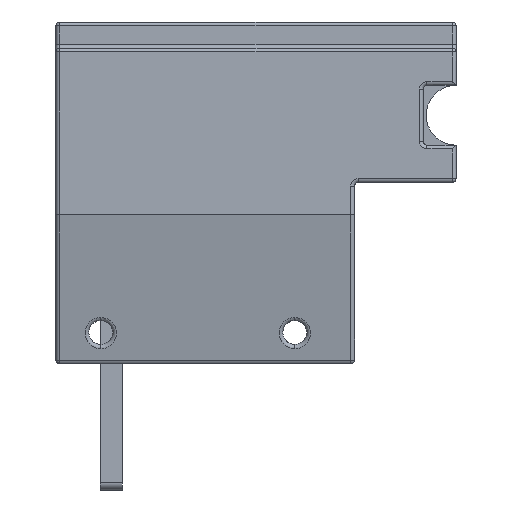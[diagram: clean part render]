
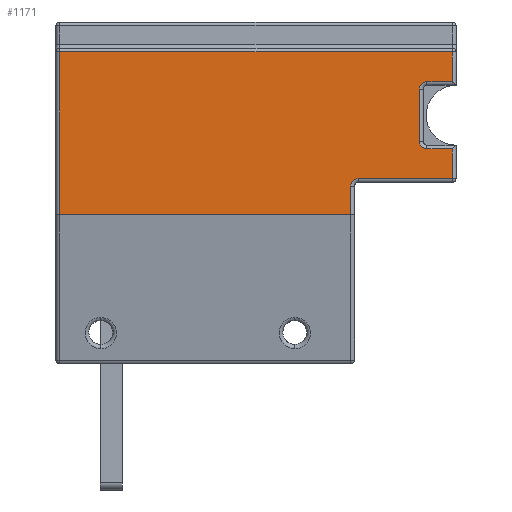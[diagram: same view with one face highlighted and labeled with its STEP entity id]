
A CAD part, front view. The second image highlights one B-rep face of the part: STEP entity #1171.
In plain terms, the highlighted planar face has unit normal (0, -1, 0).
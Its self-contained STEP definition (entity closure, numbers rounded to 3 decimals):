
#144 = ORIENTED_EDGE ( 'NONE', *, *, #10384, .T. ) ;
#282 = VECTOR ( 'NONE', #6826, 1000. ) ;
#336 = ORIENTED_EDGE ( 'NONE', *, *, #6099, .T. ) ;
#454 = CARTESIAN_POINT ( 'NONE',  ( 26.2, -32.5, 17.2 ) ) ;
#539 = ORIENTED_EDGE ( 'NONE', *, *, #9422, .T. ) ;
#615 = CARTESIAN_POINT ( 'NONE',  ( 27.2, -32.5, 18.2 ) ) ;
#652 = LINE ( 'NONE', #4635, #997 ) ;
#997 = VECTOR ( 'NONE', #10243, 1000. ) ;
#1037 = ORIENTED_EDGE ( 'NONE', *, *, #8404, .T. ) ;
#1171 = ADVANCED_FACE ( 'NONE', ( #1970 ), #1858, .F. ) ;
#1188 = LINE ( 'NONE', #10195, #282 ) ;
#1243 = DIRECTION ( 'NONE',  ( -1., 0., 0. ) ) ;
#1591 = ORIENTED_EDGE ( 'NONE', *, *, #5719, .T. ) ;
#1672 = VERTEX_POINT ( 'NONE', #3599 ) ;
#1858 = PLANE ( 'NONE',  #4936 ) ;
#1873 = EDGE_CURVE ( 'NONE', #1672, #1994, #5998, .T. ) ;
#1950 = EDGE_CURVE ( 'NONE', #7276, #7070, #652, .T. ) ;
#1970 = FACE_OUTER_BOUND ( 'NONE', #6069, .T. ) ;
#1992 = CARTESIAN_POINT ( 'NONE',  ( -22., -32.5, 0.444 ) ) ;
#1994 = VERTEX_POINT ( 'NONE', #2230 ) ;
#2209 = CIRCLE ( 'NONE', #8758, 1. ) ;
#2230 = CARTESIAN_POINT ( 'NONE',  ( -22., -32.5, 22.2 ) ) ;
#2300 = DIRECTION ( 'NONE',  ( 1., 0., 0. ) ) ;
#2385 = ORIENTED_EDGE ( 'NONE', *, *, #9700, .F. ) ;
#2398 = ORIENTED_EDGE ( 'NONE', *, *, #5304, .T. ) ;
#2960 = ORIENTED_EDGE ( 'NONE', *, *, #3482, .F. ) ;
#2984 = LINE ( 'NONE', #5576, #8685 ) ;
#3043 = DIRECTION ( 'NONE',  ( 0., 0., 1. ) ) ;
#3102 = CARTESIAN_POINT ( 'NONE',  ( 27.2, -32.5, 17.2 ) ) ;
#3253 = VERTEX_POINT ( 'NONE', #454 ) ;
#3263 = LINE ( 'NONE', #5822, #5469 ) ;
#3424 = DIRECTION ( 'NONE',  ( 1., 0., 0. ) ) ;
#3447 = LINE ( 'NONE', #4283, #5596 ) ;
#3482 = EDGE_CURVE ( 'NONE', #8274, #7070, #10109, .T. ) ;
#3599 = CARTESIAN_POINT ( 'NONE',  ( 30.6, -32.5, 22.2 ) ) ;
#3608 = VERTEX_POINT ( 'NONE', #9634 ) ;
#3795 = VERTEX_POINT ( 'NONE', #7651 ) ;
#4029 = CARTESIAN_POINT ( 'NONE',  ( 30.6, -32.5, 0. ) ) ;
#4076 = LINE ( 'NONE', #9518, #8293 ) ;
#4115 = CIRCLE ( 'NONE', #5478, 1. ) ;
#4194 = CARTESIAN_POINT ( 'NONE',  ( 30.6, -32.5, 18.2 ) ) ;
#4211 = DIRECTION ( 'NONE',  ( 0., 0., 1. ) ) ;
#4283 = CARTESIAN_POINT ( 'NONE',  ( 30.6, -32.5, 0. ) ) ;
#4321 = DIRECTION ( 'NONE',  ( 0., 1., 0. ) ) ;
#4635 = CARTESIAN_POINT ( 'NONE',  ( 0., -32.5, 9.2 ) ) ;
#4669 = CARTESIAN_POINT ( 'NONE',  ( 27.2, -32.5, 10.2 ) ) ;
#4826 = DIRECTION ( 'NONE',  ( 0., -1., 0. ) ) ;
#4912 = VERTEX_POINT ( 'NONE', #4194 ) ;
#4936 = AXIS2_PLACEMENT_3D ( 'NONE', #7623, #4321, #6879 ) ;
#4943 = VERTEX_POINT ( 'NONE', #1992 ) ;
#5142 = VERTEX_POINT ( 'NONE', #615 ) ;
#5304 = EDGE_CURVE ( 'NONE', #4912, #1672, #7284, .T. ) ;
#5306 = CARTESIAN_POINT ( 'NONE',  ( 30.6, -32.5, 9.2 ) ) ;
#5433 = EDGE_CURVE ( 'NONE', #8274, #3253, #2984, .T. ) ;
#5469 = VECTOR ( 'NONE', #3424, 1000. ) ;
#5478 = AXIS2_PLACEMENT_3D ( 'NONE', #3102, #8586, #7175 ) ;
#5576 = CARTESIAN_POINT ( 'NONE',  ( 26.2, -32.5, 0. ) ) ;
#5596 = VECTOR ( 'NONE', #9895, 1000. ) ;
#5707 = CARTESIAN_POINT ( 'NONE',  ( 17., -32.5, 4.2 ) ) ;
#5719 = EDGE_CURVE ( 'NONE', #1994, #4943, #8564, .T. ) ;
#5776 = VECTOR ( 'NONE', #8272, 1000. ) ;
#5822 = CARTESIAN_POINT ( 'NONE',  ( 17.5, -32.5, 0.444 ) ) ;
#5877 = LINE ( 'NONE', #10171, #6375 ) ;
#5998 = LINE ( 'NONE', #6724, #6718 ) ;
#6055 = CARTESIAN_POINT ( 'NONE',  ( 18., -32.5, 4.2 ) ) ;
#6069 = EDGE_LOOP ( 'NONE', ( #2385, #144, #2398, #6733, #1591, #539, #336, #6596, #7518, #1037, #9126, #2960, #6425 ) ) ;
#6099 = EDGE_CURVE ( 'NONE', #3795, #7650, #5877, .T. ) ;
#6313 = CARTESIAN_POINT ( 'NONE',  ( -22., -32.5, 0. ) ) ;
#6319 = VERTEX_POINT ( 'NONE', #9127 ) ;
#6368 = CARTESIAN_POINT ( 'NONE',  ( 27.2, -32.5, 9.2 ) ) ;
#6375 = VECTOR ( 'NONE', #4211, 1000. ) ;
#6425 = ORIENTED_EDGE ( 'NONE', *, *, #5433, .T. ) ;
#6596 = ORIENTED_EDGE ( 'NONE', *, *, #7358, .F. ) ;
#6718 = VECTOR ( 'NONE', #1243, 1000. ) ;
#6724 = CARTESIAN_POINT ( 'NONE',  ( 0., -32.5, 22.2 ) ) ;
#6733 = ORIENTED_EDGE ( 'NONE', *, *, #1873, .T. ) ;
#6826 = DIRECTION ( 'NONE',  ( 1., 0., 0. ) ) ;
#6879 = DIRECTION ( 'NONE',  ( 0., 0., 1. ) ) ;
#7070 = VERTEX_POINT ( 'NONE', #6368 ) ;
#7175 = DIRECTION ( 'NONE',  ( 0., 0., 1. ) ) ;
#7276 = VERTEX_POINT ( 'NONE', #5306 ) ;
#7284 = LINE ( 'NONE', #4029, #5776 ) ;
#7358 = EDGE_CURVE ( 'NONE', #6319, #7650, #2209, .T. ) ;
#7518 = ORIENTED_EDGE ( 'NONE', *, *, #8799, .T. ) ;
#7528 = DIRECTION ( 'NONE',  ( 0., 0., 1. ) ) ;
#7587 = AXIS2_PLACEMENT_3D ( 'NONE', #4669, #4826, #3043 ) ;
#7623 = CARTESIAN_POINT ( 'NONE',  ( 0., -32.5, 0. ) ) ;
#7650 = VERTEX_POINT ( 'NONE', #5707 ) ;
#7651 = CARTESIAN_POINT ( 'NONE',  ( 17., -32.5, 0.444 ) ) ;
#7711 = VECTOR ( 'NONE', #10356, 1000. ) ;
#8272 = DIRECTION ( 'NONE',  ( 0., 0., 1. ) ) ;
#8274 = VERTEX_POINT ( 'NONE', #10374 ) ;
#8293 = VECTOR ( 'NONE', #2300, 1000. ) ;
#8404 = EDGE_CURVE ( 'NONE', #3608, #7276, #3447, .T. ) ;
#8564 = LINE ( 'NONE', #6313, #7711 ) ;
#8586 = DIRECTION ( 'NONE',  ( 0., -1., 0. ) ) ;
#8685 = VECTOR ( 'NONE', #10368, 1000. ) ;
#8758 = AXIS2_PLACEMENT_3D ( 'NONE', #6055, #9946, #7528 ) ;
#8799 = EDGE_CURVE ( 'NONE', #6319, #3608, #4076, .T. ) ;
#9126 = ORIENTED_EDGE ( 'NONE', *, *, #1950, .T. ) ;
#9127 = CARTESIAN_POINT ( 'NONE',  ( 18., -32.5, 5.2 ) ) ;
#9422 = EDGE_CURVE ( 'NONE', #4943, #3795, #3263, .T. ) ;
#9518 = CARTESIAN_POINT ( 'NONE',  ( 0., -32.5, 5.2 ) ) ;
#9634 = CARTESIAN_POINT ( 'NONE',  ( 30.6, -32.5, 5.2 ) ) ;
#9700 = EDGE_CURVE ( 'NONE', #5142, #3253, #4115, .T. ) ;
#9895 = DIRECTION ( 'NONE',  ( 0., 0., 1. ) ) ;
#9946 = DIRECTION ( 'NONE',  ( 0., -1., 0. ) ) ;
#10109 = CIRCLE ( 'NONE', #7587, 1. ) ;
#10171 = CARTESIAN_POINT ( 'NONE',  ( 17., -32.5, 0. ) ) ;
#10195 = CARTESIAN_POINT ( 'NONE',  ( 0., -32.5, 18.2 ) ) ;
#10243 = DIRECTION ( 'NONE',  ( -1., 0., 0. ) ) ;
#10356 = DIRECTION ( 'NONE',  ( 0., 0., -1. ) ) ;
#10368 = DIRECTION ( 'NONE',  ( 0., 0., 1. ) ) ;
#10374 = CARTESIAN_POINT ( 'NONE',  ( 26.2, -32.5, 10.2 ) ) ;
#10384 = EDGE_CURVE ( 'NONE', #5142, #4912, #1188, .T. ) ;
